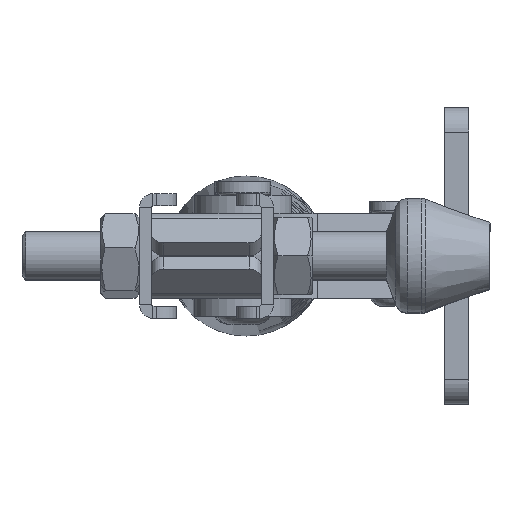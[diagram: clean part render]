
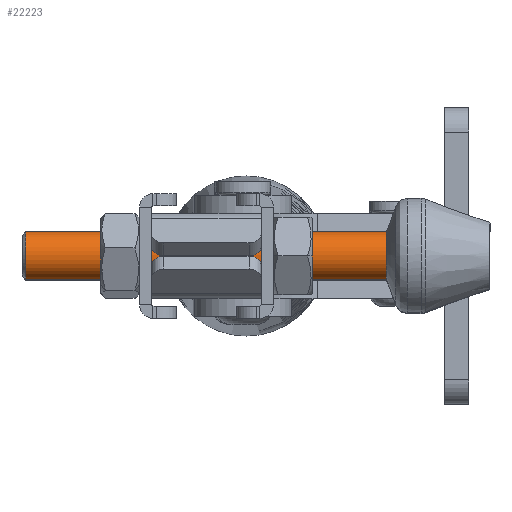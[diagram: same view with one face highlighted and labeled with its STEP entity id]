
A CAD part, left-side view. The second image highlights one B-rep face of the part: STEP entity #22223.
In plain terms, the highlighted cylindrical face has radius 4 mm (diameter 8 mm), a partial arc.
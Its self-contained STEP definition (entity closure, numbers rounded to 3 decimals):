
#84 = EDGE_CURVE ( 'NONE', #11884, #20904, #22177, .T. ) ;
#364 = CYLINDRICAL_SURFACE ( 'NONE', #17848, 4. ) ;
#531 = EDGE_CURVE ( 'NONE', #4149, #20904, #1798, .T. ) ;
#1779 = VERTEX_POINT ( 'NONE', #26700 ) ;
#1798 = LINE ( 'NONE', #1969, #24316 ) ;
#1969 = CARTESIAN_POINT ( 'NONE',  ( -77., 0., 4. ) ) ;
#2717 = FACE_OUTER_BOUND ( 'NONE', #12392, .T. ) ;
#3905 = CARTESIAN_POINT ( 'NONE',  ( -77., 0., -4. ) ) ;
#4149 = VERTEX_POINT ( 'NONE', #26187 ) ;
#5600 = CARTESIAN_POINT ( 'NONE',  ( -77., 0., 0. ) ) ;
#5865 = EDGE_CURVE ( 'NONE', #1779, #11884, #16871, .T. ) ;
#7155 = AXIS2_PLACEMENT_3D ( 'NONE', #21903, #14470, #32943 ) ;
#7527 = CARTESIAN_POINT ( 'NONE',  ( -76.375, 0., 0. ) ) ;
#11884 = VERTEX_POINT ( 'NONE', #16448 ) ;
#11991 = VECTOR ( 'NONE', #19055, 1000. ) ;
#12094 = DIRECTION ( 'NONE',  ( -1., 0., 0. ) ) ;
#12392 = EDGE_LOOP ( 'NONE', ( #27585, #13575, #16525, #32964 ) ) ;
#13575 = ORIENTED_EDGE ( 'NONE', *, *, #28904, .T. ) ;
#14419 = CARTESIAN_POINT ( 'NONE',  ( -76.375, 0., 4. ) ) ;
#14470 = DIRECTION ( 'NONE',  ( -1., 0., 0. ) ) ;
#15691 = AXIS2_PLACEMENT_3D ( 'NONE', #7527, #22871, #22694 ) ;
#16448 = CARTESIAN_POINT ( 'NONE',  ( -76.375, 0., -4. ) ) ;
#16525 = ORIENTED_EDGE ( 'NONE', *, *, #531, .T. ) ;
#16871 = LINE ( 'NONE', #3905, #11991 ) ;
#17375 = CIRCLE ( 'NONE', #7155, 4. ) ;
#17848 = AXIS2_PLACEMENT_3D ( 'NONE', #5600, #23579, #18546 ) ;
#18546 = DIRECTION ( 'NONE',  ( 0., 0., 1. ) ) ;
#19055 = DIRECTION ( 'NONE',  ( -1., 0., 0. ) ) ;
#20904 = VERTEX_POINT ( 'NONE', #14419 ) ;
#21903 = CARTESIAN_POINT ( 'NONE',  ( -17.033, 0., 0. ) ) ;
#22177 = CIRCLE ( 'NONE', #15691, 4. ) ;
#22223 = ADVANCED_FACE ( 'NONE', ( #2717 ), #364, .T. ) ;
#22694 = DIRECTION ( 'NONE',  ( 0., 0., 1. ) ) ;
#22871 = DIRECTION ( 'NONE',  ( -1., 0., 0. ) ) ;
#23579 = DIRECTION ( 'NONE',  ( -1., 0., 0. ) ) ;
#24316 = VECTOR ( 'NONE', #12094, 1000. ) ;
#26187 = CARTESIAN_POINT ( 'NONE',  ( -17.033, 0., 4. ) ) ;
#26700 = CARTESIAN_POINT ( 'NONE',  ( -17.033, 0., -4. ) ) ;
#27585 = ORIENTED_EDGE ( 'NONE', *, *, #5865, .F. ) ;
#28904 = EDGE_CURVE ( 'NONE', #1779, #4149, #17375, .T. ) ;
#32943 = DIRECTION ( 'NONE',  ( 0., 0., 1. ) ) ;
#32964 = ORIENTED_EDGE ( 'NONE', *, *, #84, .F. ) ;
